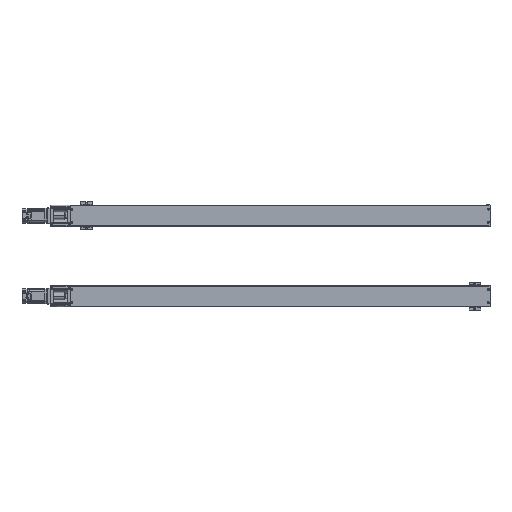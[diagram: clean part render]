
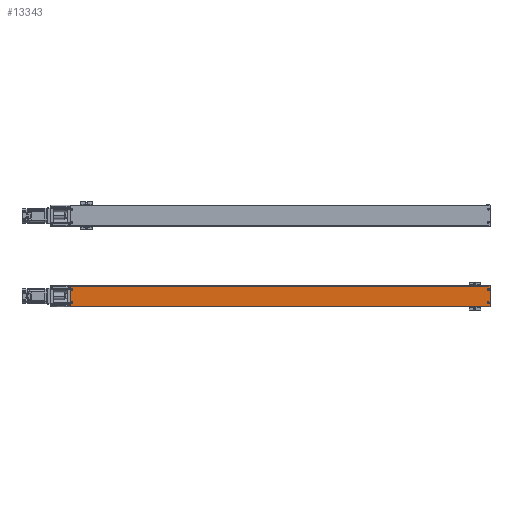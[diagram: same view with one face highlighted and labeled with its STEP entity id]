
A CAD part, top view. The second image highlights one B-rep face of the part: STEP entity #13343.
In plain terms, the highlighted planar face has unit normal (0, 0, 1).
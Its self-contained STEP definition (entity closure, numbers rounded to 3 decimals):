
#13343=ADVANCED_FACE('',(#26914),#26915,.T.);
#26914=FACE_OUTER_BOUND('',#51237,.T.);
#26915=PLANE('',#51238);
#51237=EDGE_LOOP('',(#87921,#87922,#87923,#87924));
#51238=AXIS2_PLACEMENT_3D('',#87925,#87926,#87927);
#87921=ORIENTED_EDGE('',*,*,#104533,.F.);
#87922=ORIENTED_EDGE('',*,*,#105712,.T.);
#87923=ORIENTED_EDGE('',*,*,#108533,.F.);
#87924=ORIENTED_EDGE('',*,*,#108534,.T.);
#87925=CARTESIAN_POINT('',(-649.88,-1045.19,-6.33));
#87926=DIRECTION('',(0.0,-0.0,1.0));
#87927=DIRECTION('',(1.0,0.,0.0));
#104533=EDGE_CURVE('',#126001,#126003,#126004,.T.);
#105712=EDGE_CURVE('',#126001,#127469,#127471,.T.);
#108533=EDGE_CURVE('',#130676,#127469,#130677,.T.);
#108534=EDGE_CURVE('',#130676,#126003,#130678,.T.);
#126001=VERTEX_POINT('',#153044);
#126003=VERTEX_POINT('',#153046);
#126004=LINE('',#153047,#153048);
#127469=VERTEX_POINT('',#155072);
#127471=LINE('',#155074,#155075);
#130676=VERTEX_POINT('',#159196);
#130677=LINE('',#159197,#159198);
#130678=LINE('',#159199,#159200);
#153044=CARTESIAN_POINT('',(-1132.38,-1008.69,-6.33));
#153046=CARTESIAN_POINT('',(431.62,-1008.69,-6.33));
#153047=CARTESIAN_POINT('',(-49.88,-1008.69,-6.33));
#153048=VECTOR('',#176952,1.0);
#155072=CARTESIAN_POINT('',(-1132.38,-1081.69,-6.33));
#155074=CARTESIAN_POINT('',(-1132.38,-1045.19,-6.33));
#155075=VECTOR('',#178515,1.0);
#159196=CARTESIAN_POINT('',(431.62,-1081.69,-6.33));
#159197=CARTESIAN_POINT('',(-49.88,-1081.69,-6.33));
#159198=VECTOR('',#181749,1.0);
#159199=CARTESIAN_POINT('',(431.62,-1045.19,-6.33));
#159200=VECTOR('',#181750,1.0);
#176952=DIRECTION('',(1.0,0.,0.0));
#178515=DIRECTION('',(0.,-1.0,0.));
#181749=DIRECTION('',(-1.0,0.,0.0));
#181750=DIRECTION('',(0.,1.0,0.));
